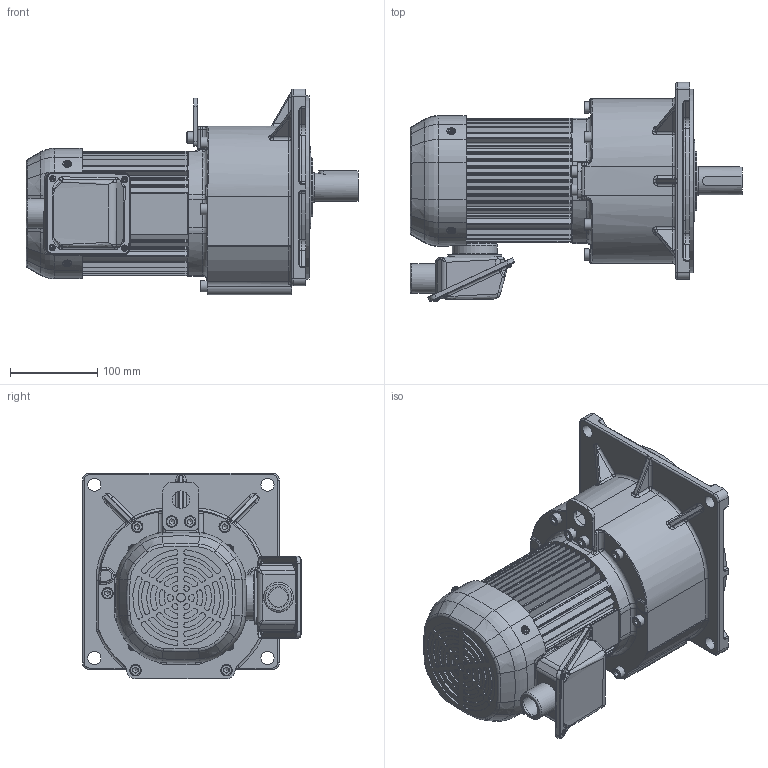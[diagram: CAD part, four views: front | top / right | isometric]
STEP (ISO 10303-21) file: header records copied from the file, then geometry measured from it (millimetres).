
FILE_DESCRIPTION( ( 'Unknown' ), '1' );
FILE_NAME( 'W:/gm/3D-WEB/GV-S/完成品/モータ+減速機/パーツデータ/完成品(GV-SF_1.5kw_ブレーキ無_G).stp', 'Unknown', ( 'Unknown' ), ( 'Unknown' ), 'PSStep 11.0', 'Unknown', ' ' );
FILE_SCHEMA( ( 'AUTOMOTIVE_DESIGN { 1 0 10303 214 1 1 1 1 }' ) );
Length unit declared in the file: millimetre
Products named in the file (2): 尭懍婡(GV-S_套菁迬鏁t1.5
Bounding box: 379.59 x 250.32 x 235.5 mm (x, y, z)
Volume: 6859108.6 mm3; surface area: 621651.2 mm2
Topology: 2 solids, 42 shells, 2074 faces, 5150 edges, 3220 vertices
Faces by surface type: cylinder 892, plane 741, torus 190, bspline 162, cone 55, sphere 34
Full cylindrical faces by diameter (mm): 3.8 x8, 4 x2, 4.2 x8, 4.5 x12, 5.5 x4, 5.8 x4, 6 x8, 6.8 x9, 7 x10, 8 x10, 8.2 x1, 8.5 x2, 9 x8, 10 x14, 13 x8, 15 x4, 20 x1, 22 x1, 23 x1, 24.117 x2, 25 x2, 26 x1, 30 x1, 32 x1, 34 x2, 34.5 x1, 35 x1, 38 x1, 46 x1, 47 x3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
Entity records: 95051 total; most frequent: CARTESIAN_POINT 30318, DIRECTION 10624, ORIENTED_EDGE 9520, EDGE_CURVE 4760, AXIS2_PLACEMENT_3D 4274, VERTEX_POINT 3114, EDGE_LOOP 2433, CIRCLE 2283
